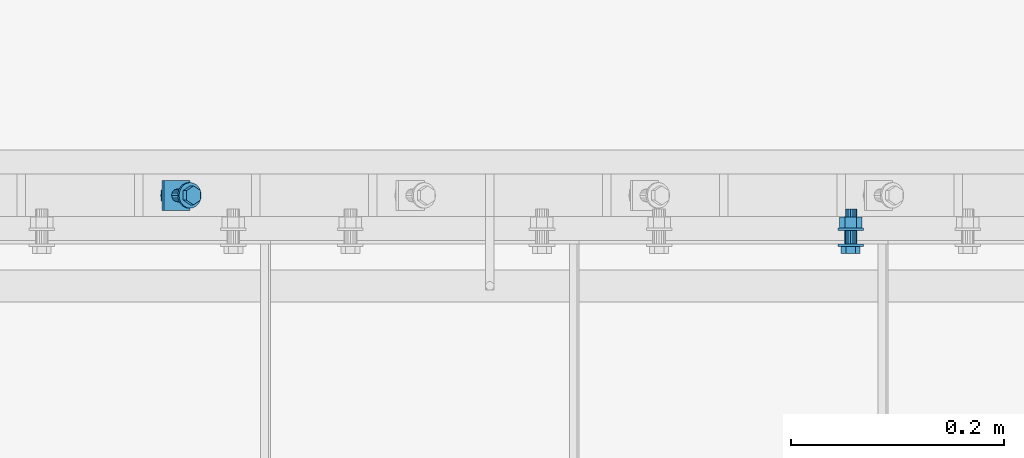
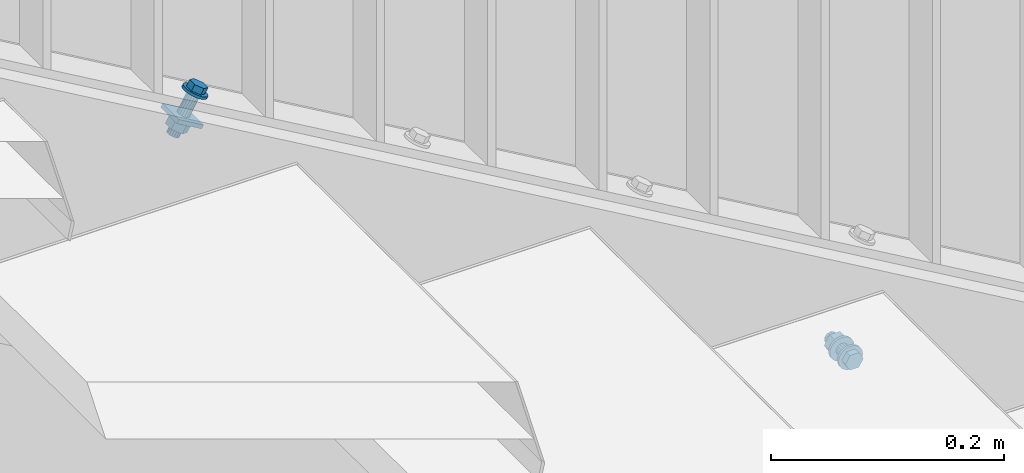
# One storey, part 118 of 145: 2 mechanical fasteners.
"""IFC2X3 building model written with IfcOpenShell, lengths in millimetres."""

from ifc_helpers import new_model, entity, si_unit, converted_unit, origin_with_axes, place, context, project, spatial, faceted_brep, element, save


model = new_model("IFC2X3")

# Units and contexts
model_context = context("Model", 3, precision=1e-09, world=origin_with_axes())
ifc_project = project(units=[si_unit("LENGTHUNIT", "METRE", prefix="MILLI"), si_unit("AREAUNIT", "SQUARE_METRE"), si_unit("VOLUMEUNIT", "CUBIC_METRE"), converted_unit("PLANEANGLEUNIT", "DEGREE", entity("IfcPlaneAngleMeasure", 0.01745329), si_unit("PLANEANGLEUNIT", "RADIAN"), dimensions=[0, 0, 0, 0, 0, 0, 0])], contexts=[model_context])

# Site, building, storey
site_placement = place(None, origin_with_axes())
site = spatial("IfcSite", under=ifc_project, at=site_placement, Name="BZ1 Grund- und Mittelschule 85716 Unterschlei?heim", CompositionType="ELEMENT")
building_placement = place(site_placement, origin_with_axes())
building = spatial("IfcBuilding", under=site, at=building_placement, Name="Struktur 1", CompositionType="ELEMENT")
storey_placement = place(building_placement, origin_with_axes())
storey = spatial("IfcBuildingStorey", under=building, at=storey_placement, Name="Default Storey", CompositionType="ELEMENT", Elevation=0.0)

# Mechanical fasteners
mechanical_fastener_1_placement = place(None, origin_with_axes())
element("IfcMechanicalFastener", 1, at=mechanical_fastener_1_placement, inside=storey, ObjectType="-", NominalDiameter=12.0, NominalLength=35.0, context=model_context, shape_type="Brep", body=[
    faceted_brep([(18432.1419848, -275.502, 2508.454545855), (18432.1419848, -273.002, 2508.454545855), (18434.483068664, -273.002, 2508.68512249), (18434.483068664, -275.502, 2508.68512249), (18436.734185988, -273.002, 2509.367991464), (18436.734185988, -275.502, 2509.367991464), (18438.808827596, -273.002, 2510.476910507), (18438.808827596, -275.502, 2510.476910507), (18440.627266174, -273.002, 2511.96926448), (18440.627266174, -275.502, 2511.96926448), (18442.119620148, -273.002, 2513.787703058), (18442.119620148, -275.502, 2513.787703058), (18443.22853919, -273.002, 2515.862344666), (18443.22853919, -275.502, 2515.862344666), (18443.911408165, -273.002, 2518.11346199), (18443.911408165, -275.502, 2518.11346199), (18444.1419848, -273.002, 2520.454545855), (18444.1419848, -275.502, 2520.454545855), (18443.911408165, -273.002, 2522.795629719), (18443.911408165, -275.502, 2522.795629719), (18443.22853919, -273.002, 2525.046747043), (18443.22853919, -275.502, 2525.046747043), (18442.119620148, -273.002, 2527.121388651), (18442.119620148, -275.502, 2527.121388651), (18440.627266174, -273.002, 2528.939827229), (18440.627266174, -275.502, 2528.939827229), (18438.808827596, -273.002, 2530.432181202), (18438.808827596, -275.502, 2530.432181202), (18436.734185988, -273.002, 2531.541100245), (18436.734185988, -275.502, 2531.541100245), (18434.483068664, -273.002, 2532.223969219), (18434.483068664, -275.502, 2532.223969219), (18432.1419848, -273.002, 2532.454545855), (18432.1419848, -275.502, 2532.454545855), (18429.800900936, -273.002, 2532.223969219), (18429.800900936, -275.502, 2532.223969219), (18427.549783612, -273.002, 2531.541100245), (18427.549783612, -275.502, 2531.541100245), (18425.475142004, -273.002, 2530.432181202), (18425.475142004, -275.502, 2530.432181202), (18423.656703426, -273.002, 2528.939827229), (18423.656703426, -275.502, 2528.939827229), (18422.164349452, -273.002, 2527.121388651), (18422.164349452, -275.502, 2527.121388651), (18421.05543041, -273.002, 2525.046747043), (18421.05543041, -275.502, 2525.046747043), (18420.372561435, -273.002, 2522.795629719), (18420.372561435, -275.502, 2522.795629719), (18420.1419848, -273.002, 2520.454545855), (18420.1419848, -275.502, 2520.454545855), (18420.372561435, -273.002, 2518.11346199), (18420.372561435, -275.502, 2518.11346199), (18421.05543041, -273.002, 2515.862344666), (18421.05543041, -275.502, 2515.862344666), (18422.164349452, -273.002, 2513.787703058), (18422.164349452, -275.502, 2513.787703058), (18423.656703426, -273.002, 2511.96926448), (18423.656703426, -275.502, 2511.96926448), (18425.475142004, -273.002, 2510.476910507), (18425.475142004, -275.502, 2510.476910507), (18427.549783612, -273.002, 2509.367991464), (18427.549783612, -275.502, 2509.367991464), (18429.800900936, -273.002, 2508.68512249), (18429.800900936, -275.502, 2508.68512249)], [[[0, 1, 2, 3]], [[3, 2, 4, 5]], [[5, 4, 6, 7]], [[7, 6, 8, 9]], [[9, 8, 10, 11]], [[11, 10, 12, 13]], [[13, 12, 14, 15]], [[15, 14, 16, 17]], [[17, 16, 18, 19]], [[19, 18, 20, 21]], [[21, 20, 22, 23]], [[23, 22, 24, 25]], [[25, 24, 26, 27]], [[27, 26, 28, 29]], [[29, 28, 30, 31]], [[31, 30, 32, 33]], [[33, 32, 34, 35]], [[35, 34, 36, 37]], [[37, 36, 38, 39]], [[39, 38, 40, 41]], [[41, 40, 42, 43]], [[43, 42, 44, 45]], [[45, 44, 46, 47]], [[47, 46, 48, 49]], [[49, 48, 50, 51]], [[51, 50, 52, 53]], [[53, 52, 54, 55]], [[55, 54, 56, 57]], [[57, 56, 58, 59]], [[59, 58, 60, 61]], [[61, 60, 62, 63]], [[63, 62, 1, 0]], [[0, 3, 5, 7, 9, 11, 13, 15, 17, 19, 21, 23, 25, 27, 29, 31, 33, 35, 37, 39, 41, 43, 45, 47, 49, 51, 53, 55, 57, 59, 61, 63]], [[1, 62, 60, 58, 56, 54, 52, 50, 48, 46, 44, 42, 40, 38, 36, 34, 32, 30, 28, 26, 24, 22, 20, 18, 16, 14, 12, 10, 8, 6, 4, 2]]]),
    faceted_brep([(18436.5844848, -275.502, 2528.149181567), (18436.5844848, -281.902, 2528.149181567), (18441.0269848, -281.902, 2520.454545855), (18441.0269848, -275.502, 2520.454545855), (18436.5844848, -281.902, 2512.759910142), (18436.5844848, -275.502, 2512.759910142), (18427.6994848, -281.902, 2512.759910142), (18427.6994848, -275.502, 2512.759910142), (18423.2569848, -281.902, 2520.454545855), (18423.2569848, -275.502, 2520.454545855), (18427.6994848, -281.902, 2528.149181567), (18427.6994848, -275.502, 2528.149181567)], [[[0, 1, 2, 3]], [[3, 2, 4, 5]], [[5, 4, 6, 7]], [[7, 6, 8, 9]], [[9, 8, 10, 11]], [[11, 10, 1, 0]], [[4, 2, 1, 10, 8, 6]], [[0, 3, 5, 7, 9, 11]]]),
    faceted_brep([(18432.1419848, -273.002, 2514.454545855), (18432.1419848, -260.502, 2514.454545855), (18434.438085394, -260.502, 2514.911268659), (18434.438085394, -273.002, 2514.911268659), (18436.384625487, -260.502, 2516.211905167), (18436.384625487, -273.002, 2516.211905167), (18437.685261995, -260.502, 2518.15844526), (18437.685261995, -273.002, 2518.15844526), (18438.1419848, -260.502, 2520.454545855), (18438.1419848, -273.002, 2520.454545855), (18437.685261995, -260.502, 2522.750646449), (18437.685261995, -273.002, 2522.750646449), (18436.384625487, -260.502, 2524.697186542), (18436.384625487, -273.002, 2524.697186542), (18434.438085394, -260.502, 2525.99782305), (18434.438085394, -273.002, 2525.99782305), (18432.1419848, -260.502, 2526.454545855), (18432.1419848, -273.002, 2526.454545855), (18429.845884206, -260.502, 2525.99782305), (18429.845884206, -273.002, 2525.99782305), (18427.899344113, -260.502, 2524.697186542), (18427.899344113, -273.002, 2524.697186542), (18426.598707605, -260.502, 2522.750646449), (18426.598707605, -273.002, 2522.750646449), (18426.1419848, -260.502, 2520.454545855), (18426.1419848, -273.002, 2520.454545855), (18426.598707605, -260.502, 2518.15844526), (18426.598707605, -273.002, 2518.15844526), (18427.899344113, -260.502, 2516.211905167), (18427.899344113, -273.002, 2516.211905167), (18429.845884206, -260.502, 2514.911268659), (18429.845884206, -273.002, 2514.911268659)], [[[0, 1, 2, 3]], [[3, 2, 4, 5]], [[5, 4, 6, 7]], [[7, 6, 8, 9]], [[9, 8, 10, 11]], [[11, 10, 12, 13]], [[13, 12, 14, 15]], [[15, 14, 16, 17]], [[17, 16, 18, 19]], [[19, 18, 20, 21]], [[21, 20, 22, 23]], [[23, 22, 24, 25]], [[25, 24, 26, 27]], [[27, 26, 28, 29]], [[29, 28, 30, 31]], [[31, 30, 1, 0]], [[0, 3, 5, 7, 9, 11, 13, 15, 17, 19, 21, 23, 25, 27, 29, 31]], [[1, 30, 28, 26, 24, 22, 20, 18, 16, 14, 12, 10, 8, 6, 4, 2]]]),
    faceted_brep([(18432.1419848, -260.502, 2508.454545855), (18432.1419848, -258.002, 2508.454545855), (18434.483068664, -258.002, 2508.68512249), (18434.483068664, -260.502, 2508.68512249), (18436.734185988, -258.002, 2509.367991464), (18436.734185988, -260.502, 2509.367991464), (18438.808827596, -258.002, 2510.476910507), (18438.808827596, -260.502, 2510.476910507), (18440.627266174, -258.002, 2511.96926448), (18440.627266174, -260.502, 2511.96926448), (18442.119620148, -258.002, 2513.787703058), (18442.119620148, -260.502, 2513.787703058), (18443.22853919, -258.002, 2515.862344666), (18443.22853919, -260.502, 2515.862344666), (18443.911408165, -258.002, 2518.11346199), (18443.911408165, -260.502, 2518.11346199), (18444.1419848, -258.002, 2520.454545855), (18444.1419848, -260.502, 2520.454545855), (18443.911408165, -258.002, 2522.795629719), (18443.911408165, -260.502, 2522.795629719), (18443.22853919, -258.002, 2525.046747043), (18443.22853919, -260.502, 2525.046747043), (18442.119620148, -258.002, 2527.121388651), (18442.119620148, -260.502, 2527.121388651), (18440.627266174, -258.002, 2528.939827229), (18440.627266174, -260.502, 2528.939827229), (18438.808827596, -258.002, 2530.432181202), (18438.808827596, -260.502, 2530.432181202), (18436.734185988, -258.002, 2531.541100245), (18436.734185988, -260.502, 2531.541100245), (18434.483068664, -258.002, 2532.223969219), (18434.483068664, -260.502, 2532.223969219), (18432.1419848, -258.002, 2532.454545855), (18432.1419848, -260.502, 2532.454545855), (18429.800900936, -258.002, 2532.223969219), (18429.800900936, -260.502, 2532.223969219), (18427.549783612, -258.002, 2531.541100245), (18427.549783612, -260.502, 2531.541100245), (18425.475142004, -258.002, 2530.432181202), (18425.475142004, -260.502, 2530.432181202), (18423.656703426, -258.002, 2528.939827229), (18423.656703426, -260.502, 2528.939827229), (18422.164349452, -258.002, 2527.121388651), (18422.164349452, -260.502, 2527.121388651), (18421.05543041, -258.002, 2525.046747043), (18421.05543041, -260.502, 2525.046747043), (18420.372561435, -258.002, 2522.795629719), (18420.372561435, -260.502, 2522.795629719), (18420.1419848, -258.002, 2520.454545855), (18420.1419848, -260.502, 2520.454545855), (18420.372561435, -258.002, 2518.11346199), (18420.372561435, -260.502, 2518.11346199), (18421.05543041, -258.002, 2515.862344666), (18421.05543041, -260.502, 2515.862344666), (18422.164349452, -258.002, 2513.787703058), (18422.164349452, -260.502, 2513.787703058), (18423.656703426, -258.002, 2511.96926448), (18423.656703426, -260.502, 2511.96926448), (18425.475142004, -258.002, 2510.476910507), (18425.475142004, -260.502, 2510.476910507), (18427.549783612, -258.002, 2509.367991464), (18427.549783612, -260.502, 2509.367991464), (18429.800900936, -258.002, 2508.68512249), (18429.800900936, -260.502, 2508.68512249)], [[[0, 1, 2, 3]], [[3, 2, 4, 5]], [[5, 4, 6, 7]], [[7, 6, 8, 9]], [[9, 8, 10, 11]], [[11, 10, 12, 13]], [[13, 12, 14, 15]], [[15, 14, 16, 17]], [[17, 16, 18, 19]], [[19, 18, 20, 21]], [[21, 20, 22, 23]], [[23, 22, 24, 25]], [[25, 24, 26, 27]], [[27, 26, 28, 29]], [[29, 28, 30, 31]], [[31, 30, 32, 33]], [[33, 32, 34, 35]], [[35, 34, 36, 37]], [[37, 36, 38, 39]], [[39, 38, 40, 41]], [[41, 40, 42, 43]], [[43, 42, 44, 45]], [[45, 44, 46, 47]], [[47, 46, 48, 49]], [[49, 48, 50, 51]], [[51, 50, 52, 53]], [[53, 52, 54, 55]], [[55, 54, 56, 57]], [[57, 56, 58, 59]], [[59, 58, 60, 61]], [[61, 60, 62, 63]], [[63, 62, 1, 0]], [[0, 3, 5, 7, 9, 11, 13, 15, 17, 19, 21, 23, 25, 27, 29, 31, 33, 35, 37, 39, 41, 43, 45, 47, 49, 51, 53, 55, 57, 59, 61, 63]], [[1, 62, 60, 58, 56, 54, 52, 50, 48, 46, 44, 42, 40, 38, 36, 34, 32, 30, 28, 26, 24, 22, 20, 18, 16, 14, 12, 10, 8, 6, 4, 2]]]),
    faceted_brep([(18437.4169848, -248.002, 2529.591113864), (18437.4169848, -258.002, 2529.591113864), (18442.6919848, -258.002, 2520.454545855), (18442.6919848, -248.002, 2520.454545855), (18437.4169848, -258.002, 2511.317977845), (18437.4169848, -248.002, 2511.317977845), (18426.8669848, -258.002, 2511.317977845), (18426.8669848, -248.002, 2511.317977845), (18421.5919848, -258.002, 2520.454545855), (18421.5919848, -248.002, 2520.454545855), (18426.8669848, -258.002, 2529.591113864), (18426.8669848, -248.002, 2529.591113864)], [[[0, 1, 2, 3]], [[3, 2, 4, 5]], [[5, 4, 6, 7]], [[7, 6, 8, 9]], [[9, 8, 10, 11]], [[11, 10, 1, 0]], [[4, 2, 1, 10, 8, 6]], [[0, 3, 5, 7, 9, 11]]]),
    faceted_brep([(18432.1419848, -248.002, 2514.454545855), (18432.1419848, -240.502, 2514.454545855), (18434.438085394, -240.502, 2514.911268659), (18434.438085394, -248.002, 2514.911268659), (18436.384625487, -240.502, 2516.211905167), (18436.384625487, -248.002, 2516.211905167), (18437.685261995, -240.502, 2518.15844526), (18437.685261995, -248.002, 2518.15844526), (18438.1419848, -240.502, 2520.454545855), (18438.1419848, -248.002, 2520.454545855), (18437.685261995, -240.502, 2522.750646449), (18437.685261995, -248.002, 2522.750646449), (18436.384625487, -240.502, 2524.697186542), (18436.384625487, -248.002, 2524.697186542), (18434.438085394, -240.502, 2525.99782305), (18434.438085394, -248.002, 2525.99782305), (18432.1419848, -240.502, 2526.454545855), (18432.1419848, -248.002, 2526.454545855), (18429.845884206, -240.502, 2525.99782305), (18429.845884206, -248.002, 2525.99782305), (18427.899344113, -240.502, 2524.697186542), (18427.899344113, -248.002, 2524.697186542), (18426.598707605, -240.502, 2522.750646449), (18426.598707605, -248.002, 2522.750646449), (18426.1419848, -240.502, 2520.454545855), (18426.1419848, -248.002, 2520.454545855), (18426.598707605, -240.502, 2518.15844526), (18426.598707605, -248.002, 2518.15844526), (18427.899344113, -240.502, 2516.211905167), (18427.899344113, -248.002, 2516.211905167), (18429.845884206, -240.502, 2514.911268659), (18429.845884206, -248.002, 2514.911268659)], [[[0, 1, 2, 3]], [[3, 2, 4, 5]], [[5, 4, 6, 7]], [[7, 6, 8, 9]], [[9, 8, 10, 11]], [[11, 10, 12, 13]], [[13, 12, 14, 15]], [[15, 14, 16, 17]], [[17, 16, 18, 19]], [[19, 18, 20, 21]], [[21, 20, 22, 23]], [[23, 22, 24, 25]], [[25, 24, 26, 27]], [[27, 26, 28, 29]], [[29, 28, 30, 31]], [[31, 30, 1, 0]], [[0, 3, 5, 7, 9, 11, 13, 15, 17, 19, 21, 23, 25, 27, 29, 31]], [[1, 30, 28, 26, 24, 22, 20, 18, 16, 14, 12, 10, 8, 6, 4, 2]]]),
])
mechanical_fastener_2_placement = place(None, origin_with_axes())
element("IfcMechanicalFastener", 2, at=mechanical_fastener_2_placement, inside=storey, ObjectType="-", NominalDiameter=12.0, NominalLength=45.0, context=model_context, shape_type="Brep", body=[
    faceted_brep([(17821.993608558, -227.502, 2982.757585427), (17820.736880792, -227.502, 2980.596420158), (17820.537555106, -225.160916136, 2980.712328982), (17821.794282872, -225.160916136, 2982.873494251), (17819.947238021, -222.909798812, 2981.055601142), (17821.203965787, -222.909798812, 2983.216766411), (17818.988615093, -220.835157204, 2981.613044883), (17820.245342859, -220.835157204, 2983.774210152), (17817.698525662, -219.016718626, 2982.363237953), (17818.955253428, -219.016718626, 2984.524403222), (17816.126547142, -217.524364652, 2983.277350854), (17817.383274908, -217.524364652, 2985.438516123), (17814.333089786, -216.41544561, 2984.320254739), (17815.589817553, -216.41544561, 2986.481420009), (17812.387075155, -215.732576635, 2985.451871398), (17813.643802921, -215.732576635, 2987.613036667), (17810.363287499, -215.502, 2986.628713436), (17811.620015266, -215.502, 2988.789878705), (17808.339499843, -215.732576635, 2987.805555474), (17809.59622761, -215.732576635, 2989.966720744), (17806.393485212, -216.41544561, 2988.937172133), (17807.650212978, -216.41544561, 2991.098337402), (17804.600027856, -217.524364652, 2989.980076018), (17805.856755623, -217.524364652, 2992.141241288), (17803.028049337, -219.016718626, 2990.894188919), (17804.284777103, -219.016718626, 2993.055354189), (17801.737959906, -220.835157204, 2991.64438199), (17802.994687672, -220.835157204, 2993.805547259), (17800.779336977, -222.909798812, 2992.20182573), (17802.036064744, -222.909798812, 2994.362990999), (17800.189019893, -225.160916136, 2992.545097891), (17801.445747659, -225.160916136, 2994.70626316), (17799.989694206, -227.502, 2992.661006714), (17801.246421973, -227.502, 2994.822171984), (17800.189019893, -229.843083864, 2992.545097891), (17801.445747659, -229.843083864, 2994.70626316), (17800.779336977, -232.094201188, 2992.20182573), (17802.036064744, -232.094201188, 2994.362990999), (17801.737959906, -234.168842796, 2991.64438199), (17802.994687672, -234.168842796, 2993.805547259), (17803.028049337, -235.987281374, 2990.894188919), (17804.284777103, -235.987281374, 2993.055354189), (17804.600027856, -237.479635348, 2989.980076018), (17805.856755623, -237.479635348, 2992.141241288), (17806.393485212, -238.58855439, 2988.937172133), (17807.650212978, -238.58855439, 2991.098337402), (17808.339499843, -239.271423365, 2987.805555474), (17809.59622761, -239.271423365, 2989.966720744), (17810.363287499, -239.502, 2986.628713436), (17811.620015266, -239.502, 2988.789878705), (17812.387075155, -239.271423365, 2985.451871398), (17813.643802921, -239.271423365, 2987.613036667), (17814.333089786, -238.58855439, 2984.320254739), (17815.589817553, -238.58855439, 2986.481420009), (17816.126547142, -237.479635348, 2983.277350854), (17817.383274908, -237.479635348, 2985.438516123), (17817.698525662, -235.987281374, 2982.363237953), (17818.955253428, -235.987281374, 2984.524403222), (17818.988615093, -234.168842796, 2981.613044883), (17820.245342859, -234.168842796, 2983.774210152), (17819.947238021, -232.094201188, 2981.055601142), (17821.203965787, -232.094201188, 2983.216766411), (17820.537555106, -229.843083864, 2980.712328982), (17821.794282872, -229.843083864, 2982.873494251)], [[[0, 1, 2, 3]], [[3, 2, 4, 5]], [[5, 4, 6, 7]], [[7, 6, 8, 9]], [[9, 8, 10, 11]], [[11, 10, 12, 13]], [[13, 12, 14, 15]], [[15, 14, 16, 17]], [[17, 16, 18, 19]], [[19, 18, 20, 21]], [[21, 20, 22, 23]], [[23, 22, 24, 25]], [[25, 24, 26, 27]], [[27, 26, 28, 29]], [[29, 28, 30, 31]], [[31, 30, 32, 33]], [[33, 32, 34, 35]], [[35, 34, 36, 37]], [[37, 36, 38, 39]], [[39, 38, 40, 41]], [[41, 40, 42, 43]], [[43, 42, 44, 45]], [[45, 44, 46, 47]], [[47, 46, 48, 49]], [[49, 48, 50, 51]], [[51, 50, 52, 53]], [[53, 52, 54, 55]], [[55, 54, 56, 57]], [[57, 56, 58, 59]], [[59, 58, 60, 61]], [[61, 60, 62, 63]], [[63, 62, 1, 0]], [[0, 3, 5, 7, 9, 11, 13, 15, 17, 19, 21, 23, 25, 27, 29, 31, 33, 35, 37, 39, 41, 43, 45, 47, 49, 51, 53, 55, 57, 59, 61, 63]], [[1, 62, 60, 58, 56, 54, 52, 50, 48, 46, 44, 42, 40, 38, 36, 34, 32, 30, 28, 26, 24, 22, 20, 18, 16, 14, 12, 10, 8, 6, 4, 2]]]),
    faceted_brep([(17804.968263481, -223.0595, 2992.657903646), (17808.185486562, -223.0595, 2998.190486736), (17814.837238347, -218.617, 2994.322461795), (17811.620015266, -218.617, 2988.789878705), (17821.488990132, -223.0595, 2990.454436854), (17818.27176705, -223.0595, 2984.921853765), (17821.488990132, -231.9445, 2990.454436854), (17818.27176705, -231.9445, 2984.921853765), (17814.837238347, -236.387, 2994.322461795), (17811.620015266, -236.387, 2988.789878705), (17808.185486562, -231.9445, 2998.190486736), (17804.968263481, -231.9445, 2992.657903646)], [[[0, 1, 2, 3]], [[3, 2, 4, 5]], [[5, 4, 6, 7]], [[7, 6, 8, 9]], [[9, 8, 10, 11]], [[11, 10, 1, 0]], [[4, 2, 1, 10, 8, 6]], [[0, 3, 5, 7, 9, 11]]]),
    faceted_brep([(17815.550084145, -227.502, 2983.612566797), (17804.569292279, -227.502, 2964.729156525), (17804.174470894, -225.205899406, 2964.958747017), (17815.15526276, -225.205899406, 2983.842157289), (17803.050114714, -223.259359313, 2965.612565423), (17814.03090658, -223.259359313, 2984.495975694), (17801.367396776, -221.958722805, 2966.591073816), (17812.348188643, -221.958722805, 2985.474484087), (17799.382495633, -221.502, 2967.745303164), (17810.363287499, -221.502, 2986.628713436), (17797.397594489, -221.958722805, 2968.899532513), (17808.378386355, -221.958722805, 2987.782942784), (17795.714876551, -223.259359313, 2969.878040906), (17806.695668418, -223.259359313, 2988.761451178), (17794.590520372, -225.205899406, 2970.531859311), (17805.571312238, -225.205899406, 2989.415269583), (17794.195698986, -227.502, 2970.761449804), (17805.176490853, -227.502, 2989.644860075), (17794.590520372, -229.798100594, 2970.531859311), (17805.571312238, -229.798100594, 2989.415269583), (17795.714876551, -231.744640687, 2969.878040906), (17806.695668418, -231.744640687, 2988.761451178), (17797.397594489, -233.045277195, 2968.899532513), (17808.378386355, -233.045277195, 2987.782942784), (17799.382495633, -233.502, 2967.745303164), (17810.363287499, -233.502, 2986.628713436), (17801.367396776, -233.045277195, 2966.591073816), (17812.348188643, -233.045277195, 2985.474484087), (17803.050114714, -231.744640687, 2965.612565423), (17814.03090658, -231.744640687, 2984.495975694), (17804.174470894, -229.798100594, 2964.958747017), (17815.15526276, -229.798100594, 2983.842157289)], [[[0, 1, 2, 3]], [[3, 2, 4, 5]], [[5, 4, 6, 7]], [[7, 6, 8, 9]], [[9, 8, 10, 11]], [[11, 10, 12, 13]], [[13, 12, 14, 15]], [[15, 14, 16, 17]], [[17, 16, 18, 19]], [[19, 18, 20, 21]], [[21, 20, 22, 23]], [[23, 22, 24, 25]], [[25, 24, 26, 27]], [[27, 26, 28, 29]], [[29, 28, 30, 31]], [[31, 30, 1, 0]], [[0, 3, 5, 7, 9, 11, 13, 15, 17, 19, 21, 23, 25, 27, 29, 31]], [[1, 30, 28, 26, 24, 22, 20, 18, 16, 14, 12, 10, 8, 6, 4, 2]]]),
    faceted_brep([(17785.146334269, -213.359864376, 2971.396564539), (17787.157098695, -213.359864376, 2974.85442897), (17811.60789257, -213.359864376, 2960.636177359), (17809.597128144, -213.359864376, 2957.178312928), (17811.60789257, -241.644135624, 2960.636177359), (17809.597128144, -241.644135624, 2957.178312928), (17787.157098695, -241.644135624, 2974.85442897), (17785.146334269, -241.644135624, 2971.396564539)], [[[0, 1, 2, 3]], [[3, 2, 4, 5]], [[5, 4, 6, 7]], [[7, 6, 1, 0]], [[4, 2, 1, 6]], [[0, 3, 5, 7]]]),
    faceted_brep([(17784.446566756, -222.227, 2960.235649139), (17789.473477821, -222.227, 2968.880310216), (17797.371731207, -216.952, 2964.287438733), (17792.344820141, -216.952, 2955.642777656), (17805.269984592, -222.227, 2959.694567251), (17800.243073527, -222.227, 2951.049906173), (17805.269984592, -232.777, 2959.694567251), (17800.243073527, -232.777, 2951.049906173), (17797.371731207, -238.052, 2964.287438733), (17792.344820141, -238.052, 2955.642777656), (17789.473477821, -232.777, 2968.880310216), (17784.446566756, -232.777, 2960.235649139)], [[[0, 1, 2, 3]], [[3, 2, 4, 5]], [[5, 4, 6, 7]], [[7, 6, 8, 9]], [[9, 8, 10, 11]], [[11, 10, 1, 0]], [[4, 2, 1, 10, 8, 6]], [[0, 3, 5, 7, 9, 11]]]),
    faceted_brep([(17797.531616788, -227.502, 2952.626631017), (17794.185712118, -227.502, 2946.872757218), (17793.790890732, -225.205899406, 2947.102347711), (17797.136795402, -225.205899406, 2952.856221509), (17792.666534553, -223.259359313, 2947.756166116), (17796.012439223, -223.259359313, 2953.510039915), (17790.983816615, -221.958722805, 2948.734674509), (17794.329721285, -221.958722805, 2954.488548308), (17788.998915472, -221.502, 2949.888903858), (17792.344820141, -221.502, 2955.642777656), (17787.014014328, -221.958722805, 2951.043133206), (17790.359918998, -221.958722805, 2956.797007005), (17785.33129639, -223.259359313, 2952.021641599), (17788.67720106, -223.259359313, 2957.775515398), (17784.206940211, -225.205899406, 2952.675460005), (17787.552844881, -225.205899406, 2958.429333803), (17783.812118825, -227.502, 2952.905050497), (17787.158023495, -227.502, 2958.658924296), (17784.206940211, -229.798100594, 2952.675460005), (17787.552844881, -229.798100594, 2958.429333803), (17785.33129639, -231.744640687, 2952.021641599), (17788.67720106, -231.744640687, 2957.775515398), (17787.014014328, -233.045277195, 2951.043133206), (17790.359918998, -233.045277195, 2956.797007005), (17788.998915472, -233.502, 2949.888903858), (17792.344820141, -233.502, 2955.642777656), (17790.983816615, -233.045277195, 2948.734674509), (17794.329721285, -233.045277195, 2954.488548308), (17792.666534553, -231.744640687, 2947.756166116), (17796.012439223, -231.744640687, 2953.510039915), (17793.790890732, -229.798100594, 2947.102347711), (17797.136795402, -229.798100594, 2952.856221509)], [[[0, 1, 2, 3]], [[3, 2, 4, 5]], [[5, 4, 6, 7]], [[7, 6, 8, 9]], [[9, 8, 10, 11]], [[11, 10, 12, 13]], [[13, 12, 14, 15]], [[15, 14, 16, 17]], [[17, 16, 18, 19]], [[19, 18, 20, 21]], [[21, 20, 22, 23]], [[23, 22, 24, 25]], [[25, 24, 26, 27]], [[27, 26, 28, 29]], [[29, 28, 30, 31]], [[31, 30, 1, 0]], [[0, 3, 5, 7, 9, 11, 13, 15, 17, 19, 21, 23, 25, 27, 29, 31]], [[1, 30, 28, 26, 24, 22, 20, 18, 16, 14, 12, 10, 8, 6, 4, 2]]]),
])

save(model, "model.ifc")
